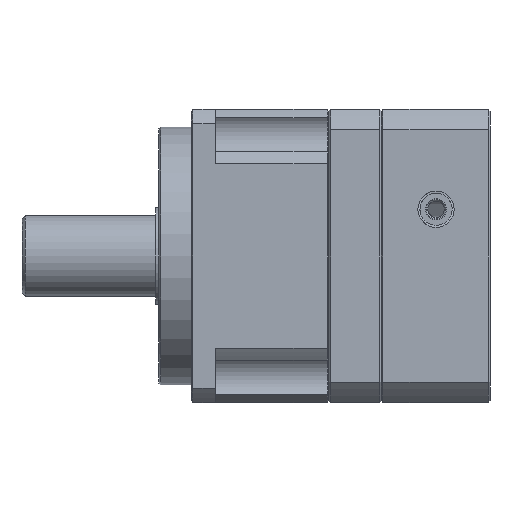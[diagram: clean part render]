
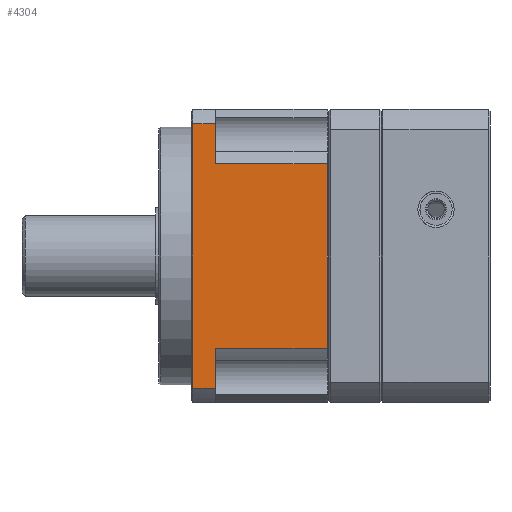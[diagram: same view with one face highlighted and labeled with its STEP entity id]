
A CAD part, left-side view. The second image highlights one B-rep face of the part: STEP entity #4304.
In plain terms, the highlighted planar face has unit normal (-1, 0, 0).
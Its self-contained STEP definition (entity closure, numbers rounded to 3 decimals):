
#640 = FACE_OUTER_BOUND ( 'NONE', #3022, .T. ) ;
#1651 = AXIS2_PLACEMENT_3D ( 'NONE', #5745, #5750, #5751 ) ;
#2036 = VERTEX_POINT ( 'NONE', #2808 ) ;
#2066 = VERTEX_POINT ( 'NONE', #2764 ) ;
#2105 = VERTEX_POINT ( 'NONE', #2692 ) ;
#2692 = CARTESIAN_POINT ( 'NONE',  ( -91., 70.5, 82.008 ) ) ;
#2764 = CARTESIAN_POINT ( 'NONE',  ( -91., 1., -57.23 ) ) ;
#2808 = CARTESIAN_POINT ( 'NONE',  ( -91., 70.5, 57.23 ) ) ;
#3022 = EDGE_LOOP ( 'NONE', ( #3079, #3065, #3073, #3069, #3070, #3083, #3071, #3067 ) ) ;
#3065 = ORIENTED_EDGE ( 'NONE', *, *, #3954, .T. ) ;
#3067 = ORIENTED_EDGE ( 'NONE', *, *, #3949, .F. ) ;
#3069 = ORIENTED_EDGE ( 'NONE', *, *, #3953, .F. ) ;
#3070 = ORIENTED_EDGE ( 'NONE', *, *, #3952, .F. ) ;
#3071 = ORIENTED_EDGE ( 'NONE', *, *, #3950, .F. ) ;
#3073 = ORIENTED_EDGE ( 'NONE', *, *, #3959, .F. ) ;
#3079 = ORIENTED_EDGE ( 'NONE', *, *, #3955, .F. ) ;
#3083 = ORIENTED_EDGE ( 'NONE', *, *, #3951, .T. ) ;
#3165 = LINE ( 'NONE', #5407, #3176 ) ;
#3173 = LINE ( 'NONE', #5413, #3182 ) ;
#3175 = LINE ( 'NONE', #5423, #3178 ) ;
#3176 = VECTOR ( 'NONE', #5422, 1000. ) ;
#3177 = LINE ( 'NONE', #5425, #3180 ) ;
#3178 = VECTOR ( 'NONE', #5424, 1000. ) ;
#3180 = VECTOR ( 'NONE', #5426, 1000. ) ;
#3181 = LINE ( 'NONE', #5428, #3184 ) ;
#3182 = VECTOR ( 'NONE', #5427, 1000. ) ;
#3183 = LINE ( 'NONE', #5430, #3186 ) ;
#3184 = VECTOR ( 'NONE', #5429, 1000. ) ;
#3185 = LINE ( 'NONE', #5432, #3188 ) ;
#3186 = VECTOR ( 'NONE', #5431, 1000. ) ;
#3188 = VECTOR ( 'NONE', #5434, 1000. ) ;
#3192 = LINE ( 'NONE', #5440, #3194 ) ;
#3194 = VECTOR ( 'NONE', #5435, 1000. ) ;
#3949 = EDGE_CURVE ( 'NONE', #4752, #6206, #3165, .T. ) ;
#3950 = EDGE_CURVE ( 'NONE', #6206, #4757, #3175, .T. ) ;
#3951 = EDGE_CURVE ( 'NONE', #4755, #4757, #3177, .T. ) ;
#3952 = EDGE_CURVE ( 'NONE', #4755, #2105, #3173, .T. ) ;
#3953 = EDGE_CURVE ( 'NONE', #2105, #2036, #3181, .T. ) ;
#3954 = EDGE_CURVE ( 'NONE', #2066, #4782, #3183, .T. ) ;
#3955 = EDGE_CURVE ( 'NONE', #2066, #4752, #3185, .T. ) ;
#3959 = EDGE_CURVE ( 'NONE', #2036, #4782, #3192, .T. ) ;
#4304 = ADVANCED_FACE ( 'NONE', ( #640 ), #5747, .F. ) ;
#4752 = VERTEX_POINT ( 'NONE', #6620 ) ;
#4755 = VERTEX_POINT ( 'NONE', #6623 ) ;
#4757 = VERTEX_POINT ( 'NONE', #6625 ) ;
#4782 = VERTEX_POINT ( 'NONE', #6650 ) ;
#5407 = CARTESIAN_POINT ( 'NONE',  ( -91., 70.5, 91. ) ) ;
#5413 = CARTESIAN_POINT ( 'NONE',  ( -91., 0., 82.008 ) ) ;
#5422 = DIRECTION ( 'NONE',  ( 0., 0., -1. ) ) ;
#5423 = CARTESIAN_POINT ( 'NONE',  ( -91., 0., -82.008 ) ) ;
#5424 = DIRECTION ( 'NONE',  ( 0., 1., 0. ) ) ;
#5425 = CARTESIAN_POINT ( 'NONE',  ( -91., 84.5, -82.008 ) ) ;
#5426 = DIRECTION ( 'NONE',  ( 0., 0., -1. ) ) ;
#5427 = DIRECTION ( 'NONE',  ( 0., -1., 0. ) ) ;
#5428 = CARTESIAN_POINT ( 'NONE',  ( -91., 70.5, 91. ) ) ;
#5429 = DIRECTION ( 'NONE',  ( 0., 0., -1. ) ) ;
#5430 = CARTESIAN_POINT ( 'NONE',  ( -91., 1., 91. ) ) ;
#5431 = DIRECTION ( 'NONE',  ( 0., 0., 1. ) ) ;
#5432 = CARTESIAN_POINT ( 'NONE',  ( -91., 70.5, -57.23 ) ) ;
#5434 = DIRECTION ( 'NONE',  ( 0., 1., 0. ) ) ;
#5435 = DIRECTION ( 'NONE',  ( 0., -1., 0. ) ) ;
#5440 = CARTESIAN_POINT ( 'NONE',  ( -91., 70.5, 57.23 ) ) ;
#5745 = CARTESIAN_POINT ( 'NONE',  ( -91., 105.5, 91. ) ) ;
#5747 = PLANE ( 'NONE',  #1651 ) ;
#5750 = DIRECTION ( 'NONE',  ( 1., 0., 0. ) ) ;
#5751 = DIRECTION ( 'NONE',  ( 0., 0., -1. ) ) ;
#6206 = VERTEX_POINT ( 'NONE', #6666 ) ;
#6620 = CARTESIAN_POINT ( 'NONE',  ( -91., 70.5, -57.23 ) ) ;
#6623 = CARTESIAN_POINT ( 'NONE',  ( -91., 84.5, 82.008 ) ) ;
#6625 = CARTESIAN_POINT ( 'NONE',  ( -91., 84.5, -82.008 ) ) ;
#6650 = CARTESIAN_POINT ( 'NONE',  ( -91., 1., 57.23 ) ) ;
#6666 = CARTESIAN_POINT ( 'NONE',  ( -91., 70.5, -82.008 ) ) ;
